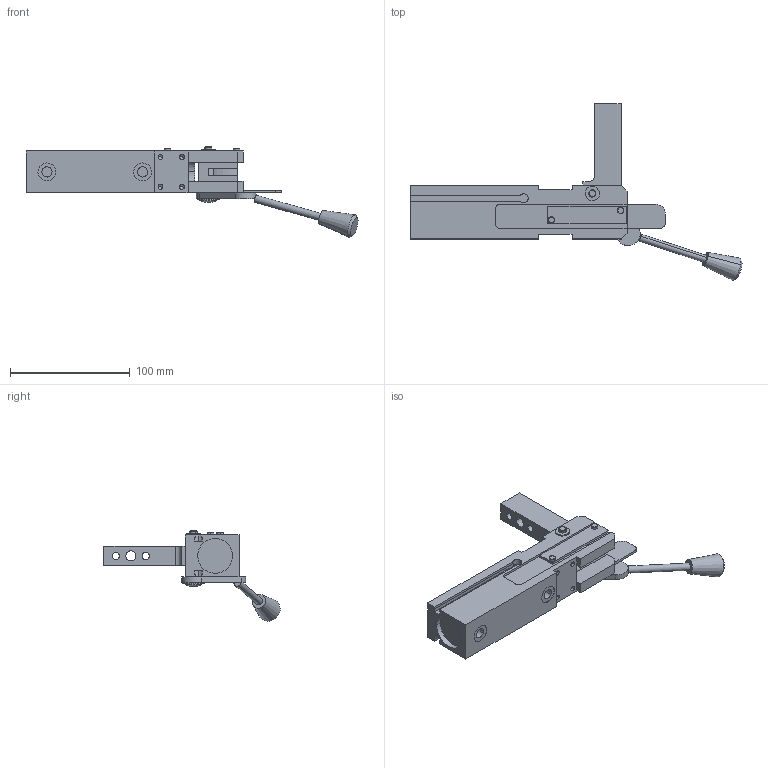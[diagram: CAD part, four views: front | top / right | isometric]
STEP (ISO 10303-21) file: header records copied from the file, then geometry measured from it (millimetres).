
FILE_DESCRIPTION(('CATIA V5 STEP Exchange'),'2;1');
FILE_NAME('C:\Users\huberm\Desktop\PKS_25_1_ZR_A18_T03_TUENKERS.stp','2016-09-19T08:53:46+00:00',('none'),('none'),'CATIA Version 5 Release 19 SP 9 (IN-10)','CATIA V5 STEP AP214','none');
FILE_SCHEMA(('AUTOMOTIVE_DESIGN { 1 0 10303 214 1 1 1 1 }'));
Length unit declared in the file: millimetre
Products named in the file (1): PKS_25_1_ZR_A18_T03_TUENKERS
Bounding box: 277.66 x 147.37 x 75.63 mm (x, y, z)
Volume: 262054.5 mm3; surface area: 55906.7 mm2
Topology: 2 solids, 2 shells, 191 faces, 492 edges, 304 vertices
Faces by surface type: plane 95, cylinder 68, cone 22, torus 4, sphere 2
Entity records: 6470 total; most frequent: ORIENTED_EDGE 948, CARTESIAN_POINT 894, DIRECTION 704, EDGE_CURVE 474, VECTOR 308, LINE 308, VERTEX_POINT 304, AXIS2_PLACEMENT_3D 282
